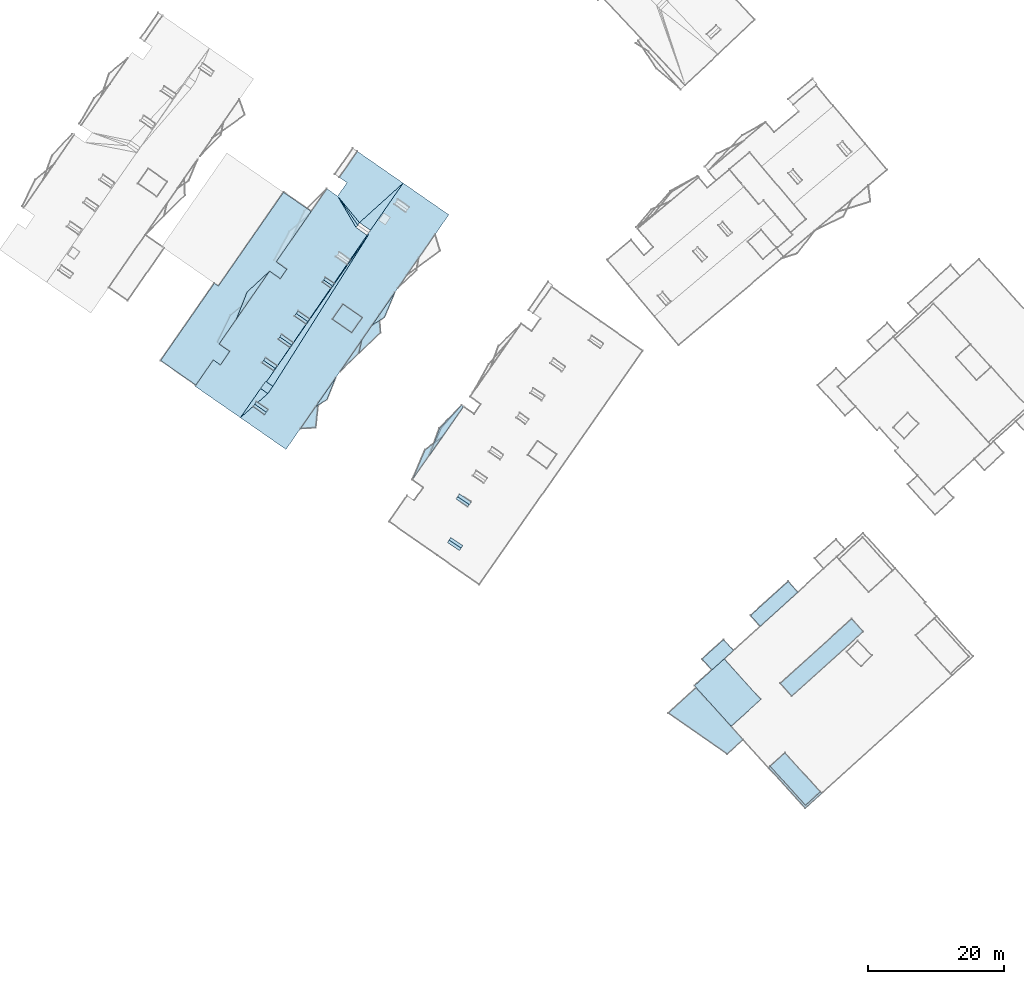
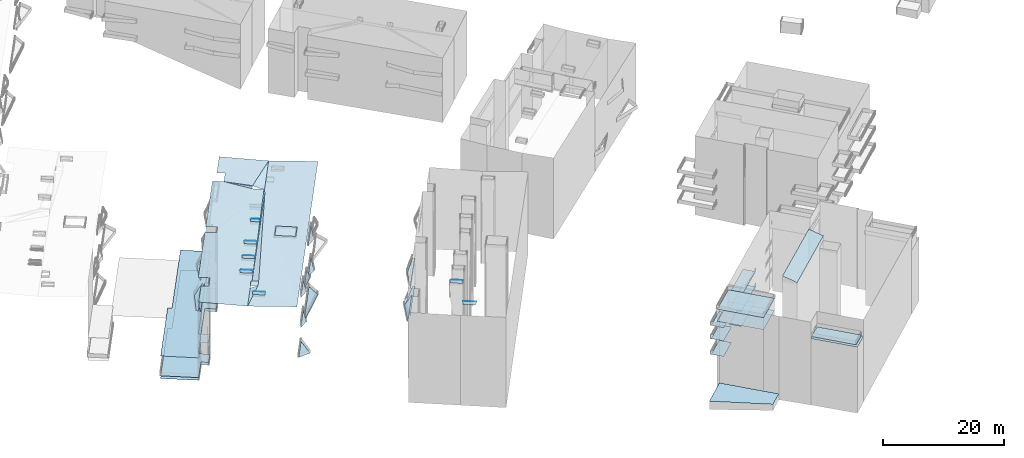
# Not in any storey, part 125 of 136: 90 roofs.
"""IFC2X3 building model written with IfcOpenShell, lengths in metres."""

from ifc_helpers import new_model, entity, si_unit, converted_unit, frame, origin, place, context, subcontext, project, spatial, face_set, surface_model, element, save


model = new_model("IFC2X3")

# Units and contexts
model_context = context("Model", 3, precision=1e-05, world=origin())
body_context = subcontext(model_context, "Body", "Model", "MODEL_VIEW")
ifc_project = project(units=[converted_unit("PLANEANGLEUNIT", "DEGREE", entity("IfcRatioMeasure", 0.0174532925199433), si_unit("PLANEANGLEUNIT", "RADIAN"), dimensions=[0, 0, 0, 0, 0, 0, 0]), si_unit("AREAUNIT", "SQUARE_METRE"), si_unit("LENGTHUNIT", "METRE")], contexts=[model_context])

# Site, building
site_placement = place(None, origin())
site = spatial("IfcSite", under=ifc_project, at=site_placement, Name="_site", CompositionType="ELEMENT")
building_1_placement = place(site_placement, origin())
building_1 = spatial("IfcBuilding", under=site, at=building_1_placement, Name="_building", CompositionType="ELEMENT")

# Roofs
for number, where, name in (
    (1, (0.0, 0.0, 0.0), "Roof"),
    (2, (0.0, 0.0, 0.0), "Roof"),
):
    element("IfcRoof", number, at=place(building_1_placement, frame(where)), inside=building_1, Name=name, ShapeType="NOTDEFINED", context=body_context, shape_type="SurfaceModel", body=[
        surface_model("IfcFaceBasedSurfaceModel", [(7.08, 16.45, 54.66), (7.33, 16.82, 54.44), (5.56, 18.0, 54.44), (5.31, 17.63, 54.66)], [face_set([[[0, 1, 2, 3]]])]),
    ])
for number, where, name in (
    (3, (0.0, 0.0, 0.0), "Roof"),
    (4, (0.0, 0.0, 0.0), "Roof"),
):
    element("IfcRoof", number, at=place(building_1_placement, frame(where)), inside=building_1, Name=name, ShapeType="NOTDEFINED", context=body_context, shape_type="SurfaceModel", body=[
        surface_model("IfcFaceBasedSurfaceModel", [(8.3, 22.86, 54.68), (8.58, 23.271, 54.45), (6.84, 24.43, 54.45), (6.57, 24.03, 54.68)], [face_set([[[0, 1, 2, 3]]])]),
    ])
for number, where, name in (
    (5, (0.0, 0.0, 0.0), "Roof"),
    (6, (0.0, 0.0, 0.0), "Roof"),
):
    element("IfcRoof", number, at=place(building_1_placement, frame(where)), inside=building_1, Name=name, ShapeType="NOTDEFINED", context=body_context, shape_type="SurfaceModel", body=[
        surface_model("IfcFaceBasedSurfaceModel", [(8.3, 22.86, 54.68), (6.57, 24.03, 54.68), (6.34, 23.69, 54.41), (8.08, 22.53, 54.41)], [face_set([[[0, 1, 2, 3]]])]),
    ])
for number, where, name in (
    (7, (0.0, 0.0, 0.0), "Roof"),
    (8, (0.0, 0.0, 0.0), "Roof"),
):
    element("IfcRoof", number, at=place(building_1_placement, frame(where)), inside=building_1, Name=name, ShapeType="NOTDEFINED", context=body_context, shape_type="SurfaceModel", body=[
        surface_model("IfcFaceBasedSurfaceModel", [(7.08, 16.45, 54.66), (5.31, 17.63, 54.66), (5.07, 17.271, 54.43), (6.84, 16.08, 54.43)], [face_set([[[0, 1, 2, 3]]])]),
    ])
for number, where, name in (
    (9, (0.0, 0.0, 0.0), "Roof"),
    (10, (0.0, 0.0, 0.0), "Roof"),
):
    element("IfcRoof", number, at=place(building_1_placement, frame(where)), inside=building_1, Name=name, ShapeType="NOTDEFINED", context=body_context, shape_type="SurfaceModel", body=[
        surface_model("IfcFaceBasedSurfaceModel", [(-0.12, 26.5, 47.18), (4.31, 32.83, 47.18), (1.77, 30.93, 47.18)], [face_set([[[0, 1, 2]]])]),
    ])
for number, where, name in (
    (11, (0.0, 0.0, 0.0), "Roof"),
    (12, (0.0, 0.0, 0.0), "Roof"),
):
    element("IfcRoof", number, at=place(building_1_placement, frame(where)), inside=building_1, Name=name, ShapeType="NOTDEFINED", context=body_context, shape_type="SurfaceModel", body=[
        surface_model("IfcFaceBasedSurfaceModel", [(3.89, 34.12, 45.09), (2.41, 30.12, 45.09), (7.44, 37.311, 45.09), (7.15, 37.51, 45.09)], [face_set([[[0, 1, 2, 3]]])]),
    ])
for number, where, name in (
    (13, (0.0, 0.0, 0.0), "Roof"),
    (14, (0.0, 0.0, 0.0), "Roof"),
):
    element("IfcRoof", number, at=place(building_1_placement, frame(where)), inside=building_1, Name=name, ShapeType="NOTDEFINED", context=body_context, shape_type="SurfaceModel", body=[
        surface_model("IfcFaceBasedSurfaceModel", [(4.15, 34.14, 50.84), (2.41, 30.12, 50.84), (7.44, 37.311, 50.84), (7.15, 37.51, 50.84)], [face_set([[[0, 1, 2, 3]]])]),
    ])

# Building
building_2_placement = place(site_placement, origin())
building_2 = spatial("IfcBuilding", under=site, at=building_2_placement, Name="_building", CompositionType="ELEMENT")

# Roofs
roof_1_placement = place(building_2_placement, origin())
element("IfcRoof", 15, at=roof_1_placement, inside=building_2, Name="Roof", ShapeType="NOTDEFINED", context=body_context, shape_type="SurfaceModel", body=[
    surface_model("IfcFaceBasedSurfaceModel", [(-29.47, 44.19, 37.98), (-28.41, 43.46, 37.98), (-27.04, 45.45, 37.98), (-28.62, 46.55, 37.98), (-21.17, 57.29, 37.98), (-19.58, 56.19, 37.98), (-18.62, 57.58, 37.98), (-20.19, 58.67, 37.98), (-15.03, 66.11, 37.98), (-19.11, 68.94, 37.98), (-28.72, 55.11, 37.98), (-29.32, 55.521, 37.98), (-37.25, 44.11, 37.98), (-32.04, 40.49, 37.98)], [face_set([[[0, 1, 2, 3, 4, 5, 6, 7, 8, 9, 10, 11, 12, 13]]])]),
])
roof_2_placement = place(building_2_placement, origin())
element("IfcRoof", 16, at=roof_2_placement, inside=building_2, Name="Roof", ShapeType="NOTDEFINED", context=body_context, shape_type="SurfaceModel", body=[
    surface_model("IfcFaceBasedSurfaceModel", [(-6.29, 63.33, 53.59), (-6.54, 62.97, 53.59), (-6.679, 62.771, 53.59), (-6.56, 62.69, 53.59), (-21.631, 40.969, 53.59), (-20.68, 40.311, 54.17), (-21.42, 39.24, 54.17), (-22.491, 39.981, 53.59), (-25.48, 35.68, 53.59), (-18.75, 31.0, 53.94), (5.27, 65.62, 53.94), (-1.46, 70.29, 53.59)], [face_set([[[0, 1, 2, 3, 4, 5, 6, 7, 8, 9, 10, 11]]])]),
])
for number, where, name in (
    (17, (0.0, 0.0, 0.0), "Roof"),
    (18, (0.0, 0.0, 0.0), "Roof"),
):
    element("IfcRoof", number, at=place(building_2_placement, frame(where)), inside=building_2, Name=name, ShapeType="NOTDEFINED", context=body_context, shape_type="SurfaceModel", body=[
        surface_model("IfcFaceBasedSurfaceModel", [(-1.46, 70.29, 53.59), (-8.21, 74.97, 53.94), (-10.87, 71.13, 53.94), (-9.75, 70.351, 53.94), (-11.13, 68.37, 53.94), (-12.71, 69.46, 53.94), (-15.03, 66.11, 53.94), (-20.19, 58.67, 53.94), (-18.62, 57.58, 53.94), (-19.58, 56.19, 53.94), (-21.17, 57.29, 53.94), (-28.62, 46.55, 53.94), (-27.04, 45.45, 53.94), (-28.41, 43.46, 53.94), (-29.47, 44.19, 53.94), (-32.04, 40.49, 53.94), (-32.16, 40.311, 53.94), (-25.48, 35.68, 53.59), (-22.491, 39.981, 53.59), (-21.75, 41.05, 53.59), (-21.631, 40.969, 53.59), (-6.56, 62.69, 53.59), (-6.679, 62.771, 53.59), (-6.79, 62.61, 54.35), (-8.41, 63.74, 54.35), (-8.16, 64.101, 54.52), (-7.91, 64.46, 54.35), (-6.29, 63.33, 53.59)], [face_set([[[0, 1, 2, 3, 4, 5, 6, 7, 8, 9, 10, 11, 12, 13, 14, 15, 16, 17, 18, 19, 20, 21, 22, 23, 24, 25, 26, 27]]])]),
    ])
for number, where, name in (
    (19, (0.0, 0.0, 0.0), "Roof"),
    (20, (0.0, 0.0, 0.0), "Roof"),
):
    element("IfcRoof", number, at=place(building_2_placement, frame(where)), inside=building_2, Name=name, ShapeType="NOTDEFINED", context=body_context, shape_type="SurfaceModel", body=[
        surface_model("IfcFaceBasedSurfaceModel", [(-21.67, 36.5, 54.52), (-21.4, 36.88, 54.32), (-23.1, 38.05, 54.32), (-23.36, 37.68, 54.52)], [face_set([[[0, 1, 2, 3]]])]),
    ])
for number, where, name in (
    (21, (0.0, 0.0, 0.0), "Roof"),
    (22, (0.0, 0.0, 0.0), "Roof"),
):
    element("IfcRoof", number, at=place(building_2_placement, frame(where)), inside=building_2, Name=name, ShapeType="NOTDEFINED", context=body_context, shape_type="SurfaceModel", body=[
        surface_model("IfcFaceBasedSurfaceModel", [(-17.94, 46.4, 54.52), (-17.69, 46.771, 54.35), (-19.39, 47.96, 54.35), (-19.65, 47.59, 54.52)], [face_set([[[0, 1, 2, 3]]])]),
    ])
for number, where, name in (
    (23, (0.0, 0.0, 0.0), "Roof"),
    (24, (0.0, 0.0, 0.0), "Roof"),
):
    element("IfcRoof", number, at=place(building_2_placement, frame(where)), inside=building_2, Name=name, ShapeType="NOTDEFINED", context=body_context, shape_type="SurfaceModel", body=[
        surface_model("IfcFaceBasedSurfaceModel", [(-15.54, 49.87, 54.52), (-15.27, 50.25, 54.35), (-16.97, 51.43, 54.35), (-17.24, 51.05, 54.52)], [face_set([[[0, 1, 2, 3]]])]),
    ])
for number, where, name in (
    (25, (0.0, 0.0, 0.0), "Roof"),
    (26, (0.0, 0.0, 0.0), "Roof"),
):
    element("IfcRoof", number, at=place(building_2_placement, frame(where)), inside=building_2, Name=name, ShapeType="NOTDEFINED", context=body_context, shape_type="SurfaceModel", body=[
        surface_model("IfcFaceBasedSurfaceModel", [(-20.34, 42.95, 54.52), (-20.06, 43.351, 54.35), (-21.77, 44.54, 54.35), (-22.05, 44.13, 54.52)], [face_set([[[0, 1, 2, 3]]])]),
    ])
for number, where, name in (
    (27, (0.0, 0.0, 0.0), "Roof"),
    (28, (0.0, 0.0, 0.0), "Roof"),
):
    element("IfcRoof", number, at=place(building_2_placement, frame(where)), inside=building_2, Name=name, ShapeType="NOTDEFINED", context=body_context, shape_type="SurfaceModel", body=[
        surface_model("IfcFaceBasedSurfaceModel", [(-11.9, 55.12, 54.52), (-11.64, 55.49, 54.35), (-12.92, 56.38, 54.35), (-13.18, 56.01, 54.52)], [face_set([[[0, 1, 2, 3]]])]),
    ])
for number, where, name in (
    (29, (0.0, 0.0, 0.0), "Roof"),
    (30, (0.0, 0.0, 0.0), "Roof"),
):
    element("IfcRoof", number, at=place(building_2_placement, frame(where)), inside=building_2, Name=name, ShapeType="NOTDEFINED", context=body_context, shape_type="SurfaceModel", body=[
        surface_model("IfcFaceBasedSurfaceModel", [(-2.68, 54.16, 44.39), (-6.03, 49.33, 44.39), (-4.22, 50.48, 44.39)], [face_set([[[0, 1, 2]]])]),
    ])
for number, where, name in (
    (31, (0.0, 0.0, 0.0), "Roof"),
    (32, (0.0, 0.0, 0.0), "Roof"),
):
    element("IfcRoof", number, at=place(building_2_placement, frame(where)), inside=building_2, Name=name, ShapeType="NOTDEFINED", context=body_context, shape_type="SurfaceModel", body=[
        surface_model("IfcFaceBasedSurfaceModel", [(-13.96, 37.91, 50.44), (-14.38, 37.3, 50.44), (-12.71, 38.351, 50.44), (-11.4, 41.59, 50.44)], [face_set([[[0, 1, 2, 3]]])]),
    ])
roof_3_placement = place(building_2_placement, origin())
element("IfcRoof", 33, at=roof_3_placement, inside=building_2, Name="Roof", ShapeType="NOTDEFINED", context=body_context, shape_type="SurfaceModel", body=[
    surface_model("IfcFaceBasedSurfaceModel", [(-21.17, 57.29, 43.65), (-24.48, 54.22, 43.65), (-26.07, 50.23, 43.65)], [face_set([[[0, 1, 2]]])]),
])
roof_4_placement = place(building_2_placement, origin())
element("IfcRoof", 34, at=roof_4_placement, inside=building_2, Name="Roof", ShapeType="NOTDEFINED", context=body_context, shape_type="SurfaceModel", body=[
    surface_model("IfcFaceBasedSurfaceModel", [(-2.68, 54.16, 50.7), (-6.03, 49.33, 50.7), (-4.22, 50.48, 50.7)], [face_set([[[0, 1, 2]]])]),
])
for number, where, name in (
    (35, (0.0, 0.0, 0.0), "Roof"),
    (36, (0.0, 0.0, 0.0), "Roof"),
):
    element("IfcRoof", number, at=place(building_2_placement, frame(where)), inside=building_2, Name=name, ShapeType="NOTDEFINED", context=body_context, shape_type="SurfaceModel", body=[
        surface_model("IfcFaceBasedSurfaceModel", [(-13.96, 37.91, 44.38), (-14.38, 37.3, 44.38), (-12.71, 38.351, 44.38), (-11.4, 41.59, 44.38)], [face_set([[[0, 1, 2, 3]]])]),
    ])
for number, where, name in (
    (37, (0.0, 0.0, 0.0), "Roof"),
    (38, (0.0, 0.0, 0.0), "Roof"),
):
    element("IfcRoof", number, at=place(building_2_placement, frame(where)), inside=building_2, Name=name, ShapeType="NOTDEFINED", context=body_context, shape_type="SurfaceModel", body=[
        surface_model("IfcFaceBasedSurfaceModel", [(-21.17, 57.29, 49.95), (-24.48, 54.22, 49.95), (-26.07, 50.23, 49.95)], [face_set([[[0, 1, 2]]])]),
    ])
for number, where, name in (
    (39, (0.0, 0.0, 0.0), "Roof"),
    (40, (0.0, 0.0, 0.0), "Roof"),
):
    element("IfcRoof", number, at=place(building_2_placement, frame(where)), inside=building_2, Name=name, ShapeType="NOTDEFINED", context=body_context, shape_type="SurfaceModel", body=[
        surface_model("IfcFaceBasedSurfaceModel", [(-21.67, 36.5, 54.52), (-23.36, 37.68, 54.52), (-23.61, 37.311, 54.32), (-21.92, 36.13, 54.32)], [face_set([[[0, 1, 2, 3]]])]),
    ])
for number, where, name in (
    (41, (0.0, 0.0, 0.0), "Roof"),
    (42, (0.0, 0.0, 0.0), "Roof"),
):
    element("IfcRoof", number, at=place(building_2_placement, frame(where)), inside=building_2, Name=name, ShapeType="NOTDEFINED", context=body_context, shape_type="SurfaceModel", body=[
        surface_model("IfcFaceBasedSurfaceModel", [(-20.34, 42.95, 54.52), (-22.05, 44.13, 54.52), (-22.3, 43.78, 54.35), (-20.59, 42.601, 54.35)], [face_set([[[0, 1, 2, 3]]])]),
    ])
for number, where, name in (
    (43, (0.0, 0.0, 0.0), "Roof"),
    (44, (0.0, 0.0, 0.0), "Roof"),
):
    element("IfcRoof", number, at=place(building_2_placement, frame(where)), inside=building_2, Name=name, ShapeType="NOTDEFINED", context=body_context, shape_type="SurfaceModel", body=[
        surface_model("IfcFaceBasedSurfaceModel", [(-18.2, 46.04, 54.35), (-17.94, 46.4, 54.52), (-19.65, 47.59, 54.52), (-19.9, 47.22, 54.35)], [face_set([[[0, 1, 2, 3]]])]),
    ])
for number, where, name in (
    (45, (0.0, 0.0, 0.0), "Roof"),
    (46, (0.0, 0.0, 0.0), "Roof"),
):
    element("IfcRoof", number, at=place(building_2_placement, frame(where)), inside=building_2, Name=name, ShapeType="NOTDEFINED", context=body_context, shape_type="SurfaceModel", body=[
        surface_model("IfcFaceBasedSurfaceModel", [(-15.8, 49.5, 54.35), (-15.54, 49.87, 54.52), (-17.24, 51.05, 54.52), (-17.5, 50.68, 54.35)], [face_set([[[0, 1, 2, 3]]])]),
    ])
for number, where, name in (
    (47, (0.0, 0.0, 0.0), "Roof"),
    (48, (0.0, 0.0, 0.0), "Roof"),
):
    element("IfcRoof", number, at=place(building_2_placement, frame(where)), inside=building_2, Name=name, ShapeType="NOTDEFINED", context=body_context, shape_type="SurfaceModel", body=[
        surface_model("IfcFaceBasedSurfaceModel", [(-23.99, 53.23, 47.1), (-26.94, 50.78, 47.1), (-28.85, 46.86, 47.1), (-28.62, 46.55, 47.1)], [face_set([[[0, 1, 2, 3]]])]),
    ])
for number, where, name in (
    (49, (0.0, 0.0, 0.0), "Roof"),
    (50, (0.0, 0.0, 0.0), "Roof"),
):
    element("IfcRoof", number, at=place(building_2_placement, frame(where)), inside=building_2, Name=name, ShapeType="NOTDEFINED", context=body_context, shape_type="SurfaceModel", body=[
        surface_model("IfcFaceBasedSurfaceModel", [(-12.13, 54.79, 54.35), (-11.9, 55.12, 54.52), (-13.18, 56.01, 54.52), (-13.41, 55.68, 54.35)], [face_set([[[0, 1, 2, 3]]])]),
    ])
for number, where, name in (
    (51, (0.0, 0.0, 0.0), "Roof"),
    (52, (0.0, 0.0, 0.0), "Roof"),
):
    element("IfcRoof", number, at=place(building_2_placement, frame(where)), inside=building_2, Name=name, ShapeType="NOTDEFINED", context=body_context, shape_type="SurfaceModel", body=[
        surface_model("IfcFaceBasedSurfaceModel", [(-11.9, 50.2, 54.34), (-9.04, 48.21, 54.34), (-7.48, 50.45, 54.34), (-10.35, 52.44, 54.34)], [face_set([[[0, 1, 2, 3]]])]),
    ])
for number, where, name in (
    (53, (0.0, 0.0, 0.0), "Roof"),
    (54, (0.0, 0.0, 0.0), "Roof"),
):
    element("IfcRoof", number, at=place(building_2_placement, frame(where)), inside=building_2, Name=name, ShapeType="NOTDEFINED", context=body_context, shape_type="SurfaceModel", body=[
        surface_model("IfcFaceBasedSurfaceModel", [(-13.96, 37.91, 41.1), (-16.61, 34.08, 41.1), (-14.35, 34.19, 41.1)], [face_set([[[0, 1, 2]]])]),
    ])
for number, where, name in (
    (55, (0.0, 0.0, 0.0), "Roof"),
    (56, (0.0, 0.0, 0.0), "Roof"),
):
    element("IfcRoof", number, at=place(building_2_placement, frame(where)), inside=building_2, Name=name, ShapeType="NOTDEFINED", context=body_context, shape_type="SurfaceModel", body=[
        surface_model("IfcFaceBasedSurfaceModel", [(-7.57, 47.11, 47.62), (-10.77, 42.49, 47.62), (-8.0, 45.16, 47.62)], [face_set([[[0, 1, 2]]])]),
    ])
for number, where, name in (
    (57, (0.0, 0.0, 0.0), "Roof"),
    (58, (0.0, 0.0, 0.0), "Roof"),
):
    element("IfcRoof", number, at=place(building_2_placement, frame(where)), inside=building_2, Name=name, ShapeType="NOTDEFINED", context=body_context, shape_type="SurfaceModel", body=[
        surface_model("IfcFaceBasedSurfaceModel", [(-37.25, 44.11, 38.52), (-32.04, 40.49, 38.52), (-29.47, 44.19, 38.52), (-28.41, 43.46, 38.52), (-27.04, 45.45, 38.52), (-28.62, 46.55, 38.52), (-21.17, 57.29, 38.52), (-19.58, 56.19, 38.52), (-18.62, 57.58, 38.52), (-20.19, 58.67, 38.52), (-15.03, 66.11, 38.52), (-19.11, 68.94, 38.52), (-28.72, 55.11, 38.52), (-29.32, 55.521, 38.52)], [face_set([[[0, 1, 2, 3, 4, 5, 6, 7, 8, 9, 10, 11, 12, 13]]])]),
    ])
roof_5_placement = place(building_2_placement, origin())
element("IfcRoof", 59, at=roof_5_placement, inside=building_2, Name="Roof", ShapeType="NOTDEFINED", context=body_context, shape_type="SurfaceModel", body=[
    surface_model("IfcFaceBasedSurfaceModel", [(-2.68, 54.16, 50.7), (-6.03, 49.33, 50.7), (-4.22, 50.48, 50.7)], [face_set([[[0, 1, 2]]])]),
])
for number, where, name in (
    (60, (0.0, 0.0, 0.0), "Roof"),
    (61, (0.0, 0.0, 0.0), "Roof"),
):
    element("IfcRoof", number, at=place(building_2_placement, frame(where)), inside=building_2, Name=name, ShapeType="NOTDEFINED", context=body_context, shape_type="SurfaceModel", body=[
        surface_model("IfcFaceBasedSurfaceModel", [(-7.57, 47.11, 41.14), (-10.77, 42.49, 41.14), (-4.8, 48.24, 41.14), (-4.96, 50.88, 41.14)], [face_set([[[0, 1, 2, 3]]])]),
    ])
roof_6_placement = place(building_2_placement, origin())
element("IfcRoof", 62, at=roof_6_placement, inside=building_2, Name="Roof", ShapeType="NOTDEFINED", context=body_context, shape_type="SurfaceModel", body=[
    surface_model("IfcFaceBasedSurfaceModel", [(-37.25, 44.11, 42.52), (-32.04, 40.49, 42.52), (-29.47, 44.19, 42.52), (-28.41, 43.46, 42.52), (-27.04, 45.45, 42.52), (-28.62, 46.55, 42.52), (-21.17, 57.29, 42.52), (-19.58, 56.19, 42.52), (-18.62, 57.58, 42.52), (-20.19, 58.67, 42.52), (-15.03, 66.11, 42.52), (-19.11, 68.94, 42.52), (-28.72, 55.11, 42.52), (-29.32, 55.521, 42.52)], [face_set([[[0, 1, 2, 3, 4, 5, 6, 7, 8, 9, 10, 11, 12, 13]]])]),
])
roof_7_placement = place(building_2_placement, origin())
element("IfcRoof", 63, at=roof_7_placement, inside=building_2, Name="Roof", ShapeType="NOTDEFINED", context=body_context, shape_type="SurfaceModel", body=[
    surface_model("IfcFaceBasedSurfaceModel", [(-21.17, 57.29, 43.65), (-24.48, 54.22, 43.65), (-26.07, 50.23, 43.65)], [face_set([[[0, 1, 2]]])]),
])
for number, where, name in (
    (64, (0.0, 0.0, 0.0), "Roof"),
    (65, (0.0, 0.0, 0.0), "Roof"),
):
    element("IfcRoof", number, at=place(building_2_placement, frame(where)), inside=building_2, Name=name, ShapeType="NOTDEFINED", context=body_context, shape_type="SurfaceModel", body=[
        surface_model("IfcFaceBasedSurfaceModel", [(-21.75, 41.05, 54.17), (-22.491, 39.981, 54.17), (-21.42, 39.24, 54.17), (-20.68, 40.311, 54.17), (-21.631, 40.969, 54.17)], [face_set([[[0, 1, 2, 3, 4]]])]),
    ])
roof_8_placement = place(building_2_placement, origin())
element("IfcRoof", 66, at=roof_8_placement, inside=building_2, Name="Roof", ShapeType="NOTDEFINED", context=body_context, shape_type="SurfaceModel", body=[
    surface_model("IfcFaceBasedSurfaceModel", [(-6.29, 63.33, 53.59), (-6.54, 62.97, 53.59), (-6.679, 62.771, 53.59), (-6.56, 62.69, 53.59), (-21.631, 40.969, 53.59), (-20.68, 40.311, 54.17), (-21.42, 39.24, 54.17), (-22.491, 39.981, 53.59), (-25.48, 35.68, 53.59), (-18.75, 31.0, 53.94), (5.27, 65.62, 53.94), (-1.46, 70.29, 53.59)], [face_set([[[0, 1, 2, 3, 4, 5, 6, 7, 8, 9, 10, 11]]])]),
])

# Building
building_3_placement = place(site_placement, origin())
building_3 = spatial("IfcBuilding", under=site, at=building_3_placement, Name="_building", CompositionType="ELEMENT")

# Roofs
for number, where, name in (
    (67, (0.0, 0.0, 0.0), "Roof"),
    (68, (0.0, 0.0, 0.0), "Roof"),
):
    element("IfcRoof", number, at=place(building_3_placement, frame(where)), inside=building_3, Name=name, ShapeType="NOTDEFINED", context=body_context, shape_type="SurfaceModel", body=[
        surface_model("IfcFaceBasedSurfaceModel", [(51.22, 4.92, 41.23), (56.77, 9.94, 41.23), (55.34, 11.521, 41.23), (49.79, 6.5, 41.23)], [face_set([[[0, 1, 2, 3]]])]),
    ])
for number, where, name in (
    (69, (0.0, 0.0, 0.0), "Roof"),
    (70, (0.0, 0.0, 0.0), "Roof"),
):
    element("IfcRoof", number, at=place(building_3_placement, frame(where)), inside=building_3, Name=name, ShapeType="NOTDEFINED", context=body_context, shape_type="SurfaceModel", body=[
        surface_model("IfcFaceBasedSurfaceModel", [(48.71, -11.81, 38.68), (46.93, -9.84, 38.68), (41.77, -4.14, 38.68), (37.68, -7.89, 38.68), (46.35, -13.939, 38.68)], [face_set([[[0, 1, 2, 3, 4]]])]),
    ])
for number, where, name in (
    (71, (0.0, 0.0, 0.0), "Roof"),
    (72, (0.0, 0.0, 0.0), "Roof"),
):
    element("IfcRoof", number, at=place(building_3_placement, frame(where)), inside=building_3, Name=name, ShapeType="NOTDEFINED", context=body_context, shape_type="SurfaceModel", body=[
        surface_model("IfcFaceBasedSurfaceModel", [(44.1, -1.53, 41.6), (47.27, 1.34, 41.6), (45.81, 2.95, 41.6), (42.64, 0.08, 41.6)], [face_set([[[0, 1, 2, 3]]])]),
    ])
for number, where, name in (
    (73, (0.0, 0.0, 0.0), "Roof"),
    (74, (0.0, 0.0, 0.0), "Roof"),
):
    element("IfcRoof", number, at=place(building_3_placement, frame(where)), inside=building_3, Name=name, ShapeType="NOTDEFINED", context=body_context, shape_type="SurfaceModel", body=[
        surface_model("IfcFaceBasedSurfaceModel", [(51.22, 4.92, 44.35), (56.77, 9.94, 44.35), (55.34, 11.521, 44.35), (49.79, 6.5, 44.35)], [face_set([[[0, 1, 2, 3]]])]),
    ])
for number, where, name in (
    (75, (0.0, 0.0, 0.0), "Roof"),
    (76, (0.0, 0.0, 0.0), "Roof"),
):
    element("IfcRoof", number, at=place(building_3_placement, frame(where)), inside=building_3, Name=name, ShapeType="NOTDEFINED", context=body_context, shape_type="SurfaceModel", body=[
        surface_model("IfcFaceBasedSurfaceModel", [(44.1, -1.53, 44.76), (47.27, 1.34, 44.76), (45.81, 2.95, 44.76), (42.64, 0.08, 44.76)], [face_set([[[0, 1, 2, 3]]])]),
    ])
for number, where, name in (
    (77, (0.0, 0.0, 0.0), "Roof"),
    (78, (0.0, 0.0, 0.0), "Roof"),
):
    element("IfcRoof", number, at=place(building_3_placement, frame(where)), inside=building_3, Name=name, ShapeType="NOTDEFINED", context=body_context, shape_type="SurfaceModel", body=[
        surface_model("IfcFaceBasedSurfaceModel", [(54.19, -3.52, 55.57), (55.9, -5.41, 54.77), (66.44, 4.13, 54.77), (64.73, 6.021, 55.57)], [face_set([[[0, 1, 2, 3]]])]),
    ])
for number, where, name in (
    (79, (0.0, 0.0, 0.0), "Roof"),
    (80, (0.0, 0.0, 0.0), "Roof"),
):
    element("IfcRoof", number, at=place(building_3_placement, frame(where)), inside=building_3, Name=name, ShapeType="NOTDEFINED", context=body_context, shape_type="SurfaceModel", body=[
        surface_model("IfcFaceBasedSurfaceModel", [(44.1, -1.53, 47.44), (47.27, 1.34, 47.44), (45.81, 2.95, 47.44), (42.64, 0.08, 47.44)], [face_set([[[0, 1, 2, 3]]])]),
    ])
for number, where, name in (
    (81, (0.0, 0.0, 0.0), "Roof"),
    (82, (0.0, 0.0, 0.0), "Roof"),
):
    element("IfcRoof", number, at=place(building_3_placement, frame(where)), inside=building_3, Name=name, ShapeType="NOTDEFINED", context=body_context, shape_type="SurfaceModel", body=[
        surface_model("IfcFaceBasedSurfaceModel", [(41.77, -4.14, 51.06), (46.93, -9.84, 51.06), (51.31, -5.88, 51.06), (45.9, 0.09, 51.06), (41.52, -3.86, 51.06)], [face_set([[[0, 1, 2, 3, 4]]])]),
    ])
for number, where, name in (
    (83, (0.0, 0.0, 0.0), "Roof"),
    (84, (0.0, 0.0, 0.0), "Roof"),
):
    element("IfcRoof", number, at=place(building_3_placement, frame(where)), inside=building_3, Name=name, ShapeType="NOTDEFINED", context=body_context, shape_type="SurfaceModel", body=[
        surface_model("IfcFaceBasedSurfaceModel", [(51.22, 4.92, 47.44), (56.77, 9.94, 47.44), (55.34, 11.521, 47.44), (49.79, 6.5, 47.44)], [face_set([[[0, 1, 2, 3]]])]),
    ])
for number, where, name in (
    (85, (0.0, 0.0, 0.0), "Roof"),
    (86, (0.0, 0.0, 0.0), "Roof"),
):
    element("IfcRoof", number, at=place(building_3_placement, frame(where)), inside=building_3, Name=name, ShapeType="NOTDEFINED", context=body_context, shape_type="SurfaceModel", body=[
        surface_model("IfcFaceBasedSurfaceModel", [(60.31, -19.74, 51.06), (54.87, -13.74, 51.06), (52.45, -15.93, 51.06), (57.89, -21.939, 51.06)], [face_set([[[0, 1, 2, 3]]])]),
    ])
for number, where, name in (
    (87, (0.0, 0.0, 0.0), "Roof"),
    (88, (0.0, 0.0, 0.0), "Roof"),
):
    element("IfcRoof", number, at=place(building_3_placement, frame(where)), inside=building_3, Name=name, ShapeType="NOTDEFINED", context=body_context, shape_type="SurfaceModel", body=[
        surface_model("IfcFaceBasedSurfaceModel", [(46.93, -9.84, 53.51), (51.31, -5.88, 53.51), (45.9, 0.09, 53.51), (41.52, -3.86, 53.51), (41.77, -4.14, 53.51)], [face_set([[[0, 1, 2, 3, 4]]])]),
    ])
for number, where, name in (
    (89, (0.0, 0.0, 0.0), "Roof"),
    (90, (0.0, 0.0, 0.0), "Roof"),
):
    element("IfcRoof", number, at=place(building_3_placement, frame(where)), inside=building_3, Name=name, ShapeType="NOTDEFINED", context=body_context, shape_type="SurfaceModel", body=[
        surface_model("IfcFaceBasedSurfaceModel", [(60.1, -19.51, 51.26), (54.87, -13.74, 51.26), (52.68, -15.72, 51.26), (57.9, -21.5, 51.26)], [face_set([[[0, 1, 2, 3]]])]),
    ])

save(model, "model.ifc")
